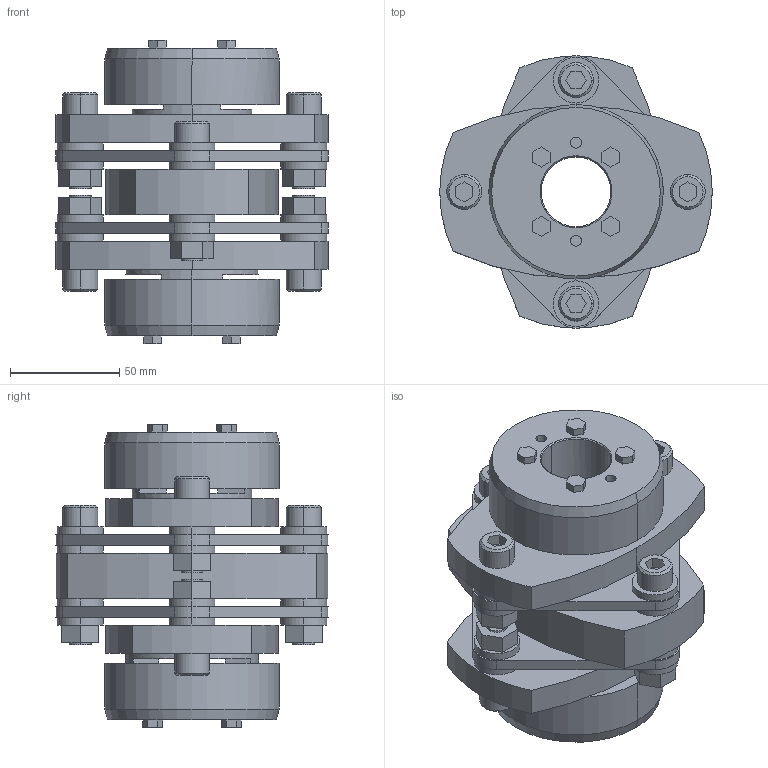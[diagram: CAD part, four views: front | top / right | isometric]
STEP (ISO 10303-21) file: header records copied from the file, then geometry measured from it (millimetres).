
FILE_DESCRIPTION((''),'2;1');
FILE_NAME('LCD-125T7-32×38.stp','2011-09-07T10:10:17',(''),(''),'AutoCAD STEP 2000i','AutoCAD 2000i',', , ');
FILE_SCHEMA(('CONFIG_CONTROL_DESIGN'));
Length unit declared in the file: millimetre
Products named in the file (7): LCD-125T7-32×38; 忣兜1; LC125T7-T038; LC125T7-T035; LC125T7-T032-1; LC125T7-T032; LCD125-ITA
Assembly tree (6 placements, depth 2):
  LCD-125T7-32×38
    忣兜1
    LC125T7-T038
    LC125T7-T035
    LC125T7-T032-1
    LC125T7-T032
    LCD125-ITA
Bounding box: 125 x 124.91 x 139 mm (x, y, z)
Volume: 659107 mm3; surface area: 137497.3 mm2
Topology: 1 solids, 1 shells, 334 faces, 818 edges, 538 vertices
Faces by surface type: plane 190, cylinder 120, cone 24
Entity records: 10099 total; most frequent: DIRECTION 1782, CARTESIAN_POINT 1697, ORIENTED_EDGE 1636, EDGE_CURVE 818, AXIS2_PLACEMENT_3D 623, VERTEX_POINT 538, VECTOR 536, LINE 536
